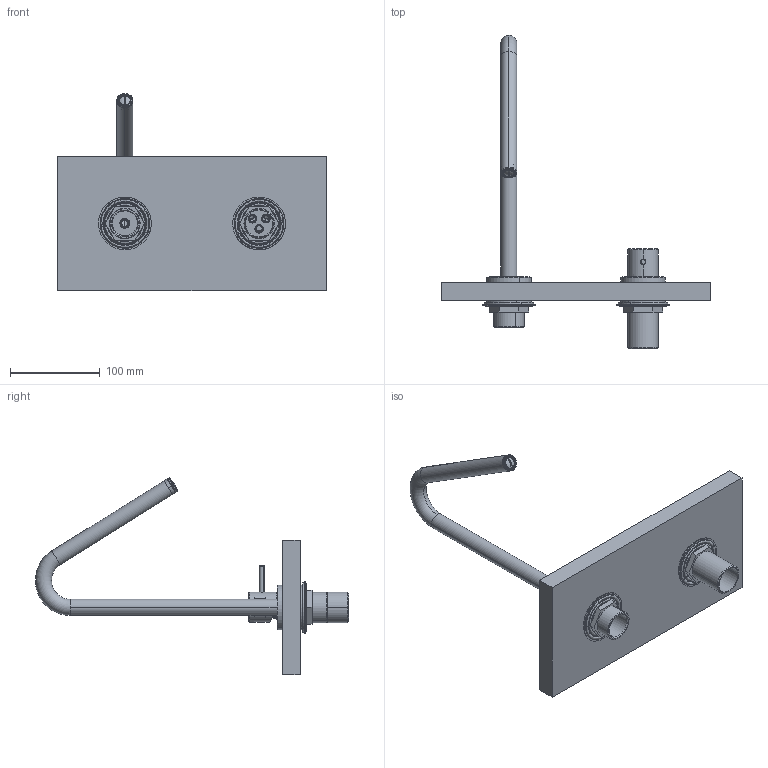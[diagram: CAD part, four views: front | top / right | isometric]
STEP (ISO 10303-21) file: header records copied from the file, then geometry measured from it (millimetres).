
FILE_DESCRIPTION (( 'STEP AP203' ), '1' );
FILE_NAME ('MME8.STEP', '2020-09-09T12:37:04', ( '' ), ( '' ), 'SwSTEP 2.0', 'SolidWorks 2020', '' );
FILE_SCHEMA (( 'CONFIG_CONTROL_DESIGN' ));
Length unit declared in the file: millimetre
Products named in the file (27): eu01_flangia_sagomata; FISSGECO001; EU0093_2; C47.00.0023.01; MME25; eu01_rondella_gomma_spugna; C24.0705.00.0; C24.0029.00.1; C24.1904.00.0; EU0648_0; MME8; CTM2; GRANO M4X3; OR212ACS; OR992262ACS; eu01_rondella_gomma; EU0649_0; C24.1472.00.0; C10.00.0013; C24.0119.00.2; C11.14.0009; TOP IN QUERCIA 2; C24.0120.00.1; C24.0028.00.0; eu01_dado_esa_x_codolo; AERA165X1CS
Assembly tree (32 placements, depth 3):
  MME8
    TOP IN QUERCIA 2
    MME25
      C24.1904.00.0
      C24.0119.00.2
      C24.0120.00.1
      C10.00.0013
      C24.0705.00.0
      C11.14.0009
      C24.0028.00.0
      C47.00.0023.01
    CTM2
      C24.0029.00.1
      OR212ACS
      AERA165X1CS
      EU0093_2
      OR992262ACS  x2
      EU0649_0  x2
      EU0648_0
      GRANO M4X3
      C24.1472.00.0
    FISSGECO001
      eu01_flangia_sagomata
      eu01_rondella_gomma
      eu01_rondella_gomma_spugna
      eu01_dado_esa_x_codolo
    FISSGECO001
      eu01_flangia_sagomata
      eu01_rondella_gomma
      eu01_rondella_gomma_spugna
      eu01_dado_esa_x_codolo
Bounding box: 300 x 349.96 x 220.21 mm (x, y, z)
Volume: 1015426.4 mm3; surface area: 246145 mm2
Topology: 27 solids, 37 shells, 1255 faces, 3425 edges, 2239 vertices
Faces by surface type: cylinder 449, plane 402, cone 202, bspline 138, torus 64
Entity records: 47097 total; most frequent: CARTESIAN_POINT 15699, ORIENTED_EDGE 5866, DIRECTION 5818, EDGE_CURVE 3163, AXIS2_PLACEMENT_3D 2291, VERTEX_POINT 2083, EDGE_LOOP 1282, VECTOR 1236
